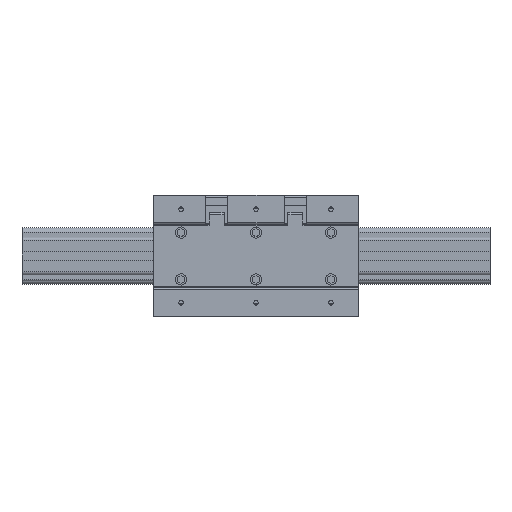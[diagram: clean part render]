
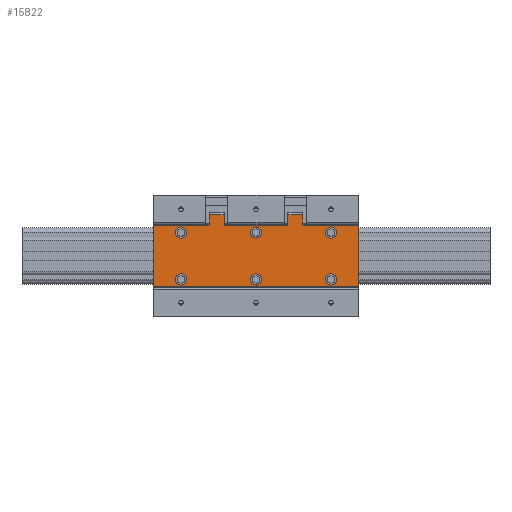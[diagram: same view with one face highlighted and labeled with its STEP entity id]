
A CAD part, top view. The second image highlights one B-rep face of the part: STEP entity #15822.
In plain terms, the highlighted planar face has unit normal (0, 0, 1).
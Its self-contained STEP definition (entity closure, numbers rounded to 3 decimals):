
#9280=CARTESIAN_POINT('',(184.,-25.0,28.7));
#9281=VERTEX_POINT('',#9280);
#9282=CARTESIAN_POINT('',(190.0,-25.0,28.7));
#9283=DIRECTION('',(0.0,0.0,-1.0));
#9284=DIRECTION('',(-1.0,0.0,0.0));
#9285=AXIS2_PLACEMENT_3D('',#9282,#9283,#9284);
#9286=CIRCLE('',#9285,6.);
#9287=EDGE_CURVE('',#9281,#9281,#9286,.T.);
#9376=CARTESIAN_POINT('',(104.0,-25.0,28.7));
#9377=VERTEX_POINT('',#9376);
#9378=CARTESIAN_POINT('',(110.0,-25.0,28.7));
#9379=DIRECTION('',(0.0,0.0,-1.0));
#9380=DIRECTION('',(-1.0,0.0,0.0));
#9381=AXIS2_PLACEMENT_3D('',#9378,#9379,#9380);
#9382=CIRCLE('',#9381,6.);
#9383=EDGE_CURVE('',#9377,#9377,#9382,.T.);
#9472=CARTESIAN_POINT('',(24.,-25.0,28.7));
#9473=VERTEX_POINT('',#9472);
#9474=CARTESIAN_POINT('',(30.0,-25.0,28.7));
#9475=DIRECTION('',(0.0,0.0,-1.0));
#9476=DIRECTION('',(-1.0,0.0,0.0));
#9477=AXIS2_PLACEMENT_3D('',#9474,#9475,#9476);
#9478=CIRCLE('',#9477,6.);
#9479=EDGE_CURVE('',#9473,#9473,#9478,.T.);
#9568=CARTESIAN_POINT('',(184.,25.0,28.7));
#9569=VERTEX_POINT('',#9568);
#9570=CARTESIAN_POINT('',(190.0,25.0,28.7));
#9571=DIRECTION('',(0.0,0.0,-1.0));
#9572=DIRECTION('',(-1.0,0.0,0.0));
#9573=AXIS2_PLACEMENT_3D('',#9570,#9571,#9572);
#9574=CIRCLE('',#9573,6.);
#9575=EDGE_CURVE('',#9569,#9569,#9574,.T.);
#9664=CARTESIAN_POINT('',(104.0,25.0,28.7));
#9665=VERTEX_POINT('',#9664);
#9666=CARTESIAN_POINT('',(110.0,25.0,28.7));
#9667=DIRECTION('',(0.0,0.0,-1.0));
#9668=DIRECTION('',(-1.0,0.0,0.0));
#9669=AXIS2_PLACEMENT_3D('',#9666,#9667,#9668);
#9670=CIRCLE('',#9669,6.);
#9671=EDGE_CURVE('',#9665,#9665,#9670,.T.);
#9946=CARTESIAN_POINT('',(24.,25.0,28.7));
#9947=VERTEX_POINT('',#9946);
#9948=CARTESIAN_POINT('',(30.,25.0,28.7));
#9949=DIRECTION('',(0.0,0.0,-1.0));
#9950=DIRECTION('',(-1.0,0.0,0.0));
#9951=AXIS2_PLACEMENT_3D('',#9948,#9949,#9950);
#9952=CIRCLE('',#9951,6.);
#9953=EDGE_CURVE('',#9947,#9947,#9952,.T.);
#14259=CARTESIAN_POINT('',(144.0,33.,28.7));
#14260=VERTEX_POINT('',#14259);
#14267=CARTESIAN_POINT('',(144.0,44.,28.7));
#14268=VERTEX_POINT('',#14267);
#14269=CARTESIAN_POINT('',(144.0,44.,28.7));
#14270=DIRECTION('',(0.0,-1.0,0.0));
#14271=VECTOR('',#14270,11.);
#14272=LINE('',#14269,#14271);
#14273=EDGE_CURVE('',#14268,#14260,#14272,.T.);
#14306=CARTESIAN_POINT('',(160.,44.,28.7));
#14307=VERTEX_POINT('',#14306);
#14324=CARTESIAN_POINT('',(160.,44.,28.7));
#14325=DIRECTION('',(-1.0,0.0,0.0));
#14326=VECTOR('',#14325,16.);
#14327=LINE('',#14324,#14326);
#14328=EDGE_CURVE('',#14307,#14268,#14327,.T.);
#14448=CARTESIAN_POINT('',(160.,33.,28.7));
#14449=VERTEX_POINT('',#14448);
#14450=CARTESIAN_POINT('',(160.,33.,28.7));
#14451=DIRECTION('',(0.0,1.0,0.0));
#14452=VECTOR('',#14451,11.);
#14453=LINE('',#14450,#14452);
#14454=EDGE_CURVE('',#14449,#14307,#14453,.T.);
#14479=CARTESIAN_POINT('',(140.,33.,28.7));
#14480=VERTEX_POINT('',#14479);
#14487=CARTESIAN_POINT('',(140.,33.,28.7));
#14488=DIRECTION('',(1.0,0.0,0.0));
#14489=VECTOR('',#14488,4.);
#14490=LINE('',#14487,#14489);
#14491=EDGE_CURVE('',#14480,#14260,#14490,.T.);
#14502=CARTESIAN_POINT('',(164.,33.,28.7));
#14503=VERTEX_POINT('',#14502);
#14504=CARTESIAN_POINT('',(160.,33.,28.7));
#14505=DIRECTION('',(1.0,0.0,0.0));
#14506=VECTOR('',#14505,4.);
#14507=LINE('',#14504,#14506);
#14508=EDGE_CURVE('',#14449,#14503,#14507,.T.);
#14715=CARTESIAN_POINT('',(220.0,33.,28.7));
#14716=VERTEX_POINT('',#14715);
#14717=CARTESIAN_POINT('',(164.,33.,28.7));
#14718=DIRECTION('',(1.0,0.0,0.0));
#14719=VECTOR('',#14718,56.);
#14720=LINE('',#14717,#14719);
#14721=EDGE_CURVE('',#14503,#14716,#14720,.T.);
#14755=CARTESIAN_POINT('',(80.,33.,28.7));
#14756=VERTEX_POINT('',#14755);
#14764=CARTESIAN_POINT('',(80.,33.,28.7));
#14765=DIRECTION('',(1.0,0.0,0.0));
#14766=VECTOR('',#14765,60.0);
#14767=LINE('',#14764,#14766);
#14768=EDGE_CURVE('',#14756,#14480,#14767,.T.);
#15282=CARTESIAN_POINT('',(60.0,33.,28.7));
#15283=VERTEX_POINT('',#15282);
#15290=CARTESIAN_POINT('',(60.0,44.,28.7));
#15291=VERTEX_POINT('',#15290);
#15292=CARTESIAN_POINT('',(60.0,44.,28.7));
#15293=DIRECTION('',(0.0,-1.0,0.0));
#15294=VECTOR('',#15293,11.);
#15295=LINE('',#15292,#15294);
#15296=EDGE_CURVE('',#15291,#15283,#15295,.T.);
#15329=CARTESIAN_POINT('',(76.,44.,28.7));
#15330=VERTEX_POINT('',#15329);
#15347=CARTESIAN_POINT('',(76.,44.,28.7));
#15348=DIRECTION('',(-1.0,0.0,0.0));
#15349=VECTOR('',#15348,16.);
#15350=LINE('',#15347,#15349);
#15351=EDGE_CURVE('',#15330,#15291,#15350,.T.);
#15457=CARTESIAN_POINT('',(76.,33.,28.7));
#15458=VERTEX_POINT('',#15457);
#15459=CARTESIAN_POINT('',(76.,33.,28.7));
#15460=DIRECTION('',(0.0,1.0,0.0));
#15461=VECTOR('',#15460,11.);
#15462=LINE('',#15459,#15461);
#15463=EDGE_CURVE('',#15458,#15330,#15462,.T.);
#15481=CARTESIAN_POINT('',(56.,33.,28.7));
#15482=VERTEX_POINT('',#15481);
#15489=CARTESIAN_POINT('',(56.,33.,28.7));
#15490=DIRECTION('',(1.0,0.0,0.0));
#15491=VECTOR('',#15490,4.);
#15492=LINE('',#15489,#15491);
#15493=EDGE_CURVE('',#15482,#15283,#15492,.T.);
#15504=CARTESIAN_POINT('',(76.,33.,28.7));
#15505=DIRECTION('',(1.0,0.0,0.0));
#15506=VECTOR('',#15505,4.0);
#15507=LINE('',#15504,#15506);
#15508=EDGE_CURVE('',#15458,#14756,#15507,.T.);
#15736=CARTESIAN_POINT('',(220.0,-33.,28.7));
#15737=VERTEX_POINT('',#15736);
#15745=CARTESIAN_POINT('',(0.0,-33.,28.7));
#15746=VERTEX_POINT('',#15745);
#15747=CARTESIAN_POINT('',(0.0,-33.,28.7));
#15748=DIRECTION('',(1.0,0.0,0.0));
#15749=VECTOR('',#15748,220.0);
#15750=LINE('',#15747,#15749);
#15751=EDGE_CURVE('',#15746,#15737,#15750,.T.);
#15764=CARTESIAN_POINT('',(0.0,-33.,28.7));
#15765=DIRECTION('',(0.0,0.0,1.0));
#15766=DIRECTION('',(1.0,0.0,0.0));
#15767=AXIS2_PLACEMENT_3D('',#15764,#15765,#15766);
#15768=PLANE('',#15767);
#15769=CARTESIAN_POINT('',(220.0,-33.,28.7));
#15770=DIRECTION('',(0.0,1.0,0.0));
#15771=VECTOR('',#15770,66.);
#15772=LINE('',#15769,#15771);
#15773=EDGE_CURVE('',#15737,#14716,#15772,.T.);
#15774=ORIENTED_EDGE('',*,*,#15773,.T.);
#15775=ORIENTED_EDGE('',*,*,#14721,.F.);
#15776=ORIENTED_EDGE('',*,*,#14508,.F.);
#15777=ORIENTED_EDGE('',*,*,#14454,.T.);
#15778=ORIENTED_EDGE('',*,*,#14328,.T.);
#15779=ORIENTED_EDGE('',*,*,#14273,.T.);
#15780=ORIENTED_EDGE('',*,*,#14491,.F.);
#15781=ORIENTED_EDGE('',*,*,#14768,.F.);
#15782=ORIENTED_EDGE('',*,*,#15508,.F.);
#15783=ORIENTED_EDGE('',*,*,#15463,.T.);
#15784=ORIENTED_EDGE('',*,*,#15351,.T.);
#15785=ORIENTED_EDGE('',*,*,#15296,.T.);
#15786=ORIENTED_EDGE('',*,*,#15493,.F.);
#15787=CARTESIAN_POINT('',(0.0,33.,28.7));
#15788=VERTEX_POINT('',#15787);
#15789=CARTESIAN_POINT('',(0.0,33.,28.7));
#15790=DIRECTION('',(1.0,0.0,0.0));
#15791=VECTOR('',#15790,56.);
#15792=LINE('',#15789,#15791);
#15793=EDGE_CURVE('',#15788,#15482,#15792,.T.);
#15794=ORIENTED_EDGE('',*,*,#15793,.F.);
#15795=CARTESIAN_POINT('',(0.0,-33.,28.7));
#15796=DIRECTION('',(0.0,1.0,0.0));
#15797=VECTOR('',#15796,66.);
#15798=LINE('',#15795,#15797);
#15799=EDGE_CURVE('',#15746,#15788,#15798,.T.);
#15800=ORIENTED_EDGE('',*,*,#15799,.F.);
#15801=ORIENTED_EDGE('',*,*,#15751,.T.);
#15802=EDGE_LOOP('',(#15774,#15775,#15776,#15777,#15778,#15779,#15780,#15781,#15782,#15783,#15784,#15785,#15786,#15794,#15800,#15801));
#15803=FACE_OUTER_BOUND('',#15802,.T.);
#15804=ORIENTED_EDGE('',*,*,#9287,.T.);
#15805=EDGE_LOOP('',(#15804));
#15806=FACE_BOUND('',#15805,.T.);
#15807=ORIENTED_EDGE('',*,*,#9383,.T.);
#15808=EDGE_LOOP('',(#15807));
#15809=FACE_BOUND('',#15808,.T.);
#15810=ORIENTED_EDGE('',*,*,#9479,.T.);
#15811=EDGE_LOOP('',(#15810));
#15812=FACE_BOUND('',#15811,.T.);
#15813=ORIENTED_EDGE('',*,*,#9575,.T.);
#15814=EDGE_LOOP('',(#15813));
#15815=FACE_BOUND('',#15814,.T.);
#15816=ORIENTED_EDGE('',*,*,#9671,.T.);
#15817=EDGE_LOOP('',(#15816));
#15818=FACE_BOUND('',#15817,.T.);
#15819=ORIENTED_EDGE('',*,*,#9953,.T.);
#15820=EDGE_LOOP('',(#15819));
#15821=FACE_BOUND('',#15820,.T.);
#15822=ADVANCED_FACE('',(#15803,#15806,#15809,#15812,#15815,#15818,#15821),#15768,.T.);
